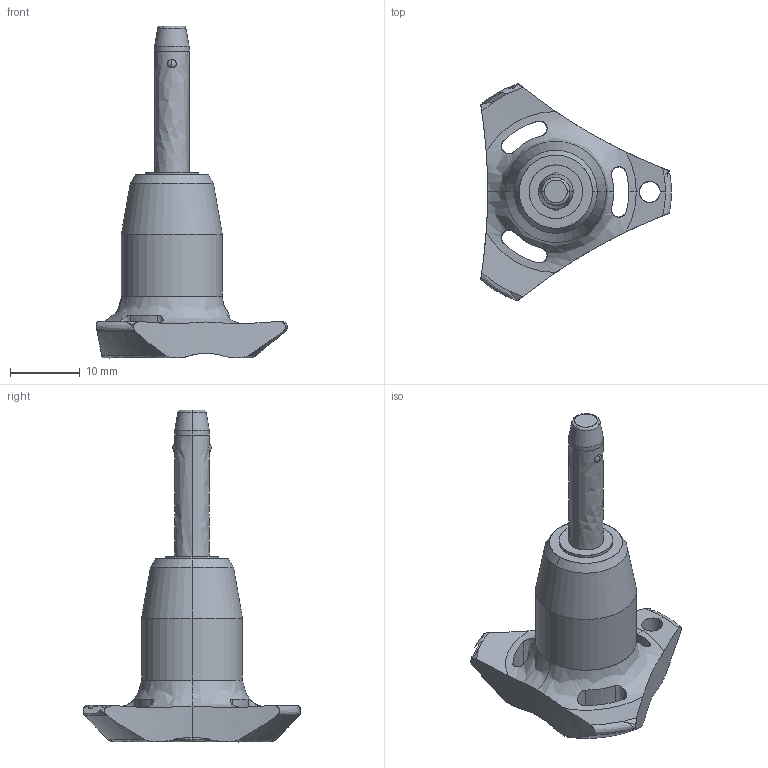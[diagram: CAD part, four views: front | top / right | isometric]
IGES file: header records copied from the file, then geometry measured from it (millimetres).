
Start section: SolidWorks IGES file using analytic representation for surfaces
Global section: file name: C:\Users\ianosborn\Desktop\QR1726_v2\QR1726_v2_20251115_IGES\QR1726.M05-015-T.igs; native system: SolidWorks 2019; preprocessor: SolidWorks 2019; author: IanOsborn; date: 251113.105733; units: millimetre
Bounding box: 27.4 x 31.31 x 47.7 mm (x, y, z)
Surface area: 2744.1 mm2 (no closed solid volume)
Topology: 0 solids, 0 shells, 69 faces, 1299 edges, 1280 vertices
Faces by surface type: revolution 52, bspline 17
